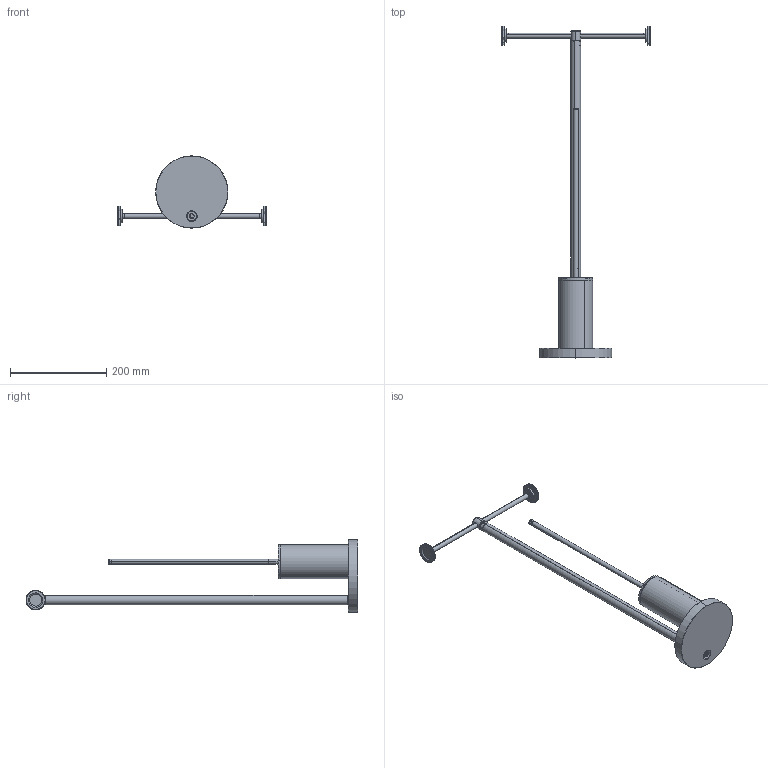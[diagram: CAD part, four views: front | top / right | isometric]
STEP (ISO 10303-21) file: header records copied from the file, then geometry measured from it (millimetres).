
FILE_DESCRIPTION (( 'STEP AP203' ), '1' );
FILE_NAME ('CWP10.STEP', '2020-12-22T07:56:49', ( '' ), ( '' ), 'SwSTEP 2.0', 'SolidWorks 2021', '' );
FILE_SCHEMA (( 'CONFIG_CONTROL_DESIGN' ));
Length unit declared in the file: millimetre
Products named in the file (23): C25.2366.00.0; C25.2376.00.0; C11.14.0011; C24.1463.00.1; C11.12.0012; C25.2355.00.0; C24.2330.00.0; C21.2359.00.0; C21.2358.00.0; C24.2370.00.0; C47.00.0127.06; C21.2357.00.0; VITE TCEI M6x20; ORING ﾘ 3,68 X 1,78; C25.2377.00.0; C25.2356.00.0; C25.2285.00.0; C21.2375.00.0; CWP10; C25.2309.00.0; CWS2; C25.2310.00.0; C25.2360.00.0
Assembly tree (24 placements, depth 3):
  CWP10
    C21.2375.00.0
    C25.2366.00.0
    C25.2376.00.0
    C24.2330.00.0
    C25.2377.00.0
    C11.14.0011
    CWS2
      C21.2359.00.0
      C25.2360.00.0
      C21.2358.00.0
      C25.2355.00.0
      C25.2356.00.0
      C21.2357.00.0
      C25.2309.00.0
      C25.2310.00.0
      C47.00.0127.06
      C25.2285.00.0
      ORING ﾘ 3,68 X 1,78
    C11.12.0012
    VITE TCEI M6x20
    C24.1463.00.1  x2
    C24.2370.00.0  x2
Bounding box: 310 x 689 x 150 mm (x, y, z)
Volume: 778253.4 mm3; surface area: 335328.2 mm2
Topology: 23 solids, 23 shells, 1011 faces, 2682 edges, 1749 vertices
Faces by surface type: plane 541, cylinder 360, cone 90, torus 20
Entity records: 22163 total; most frequent: CARTESIAN_POINT 3559, DIRECTION 3552, ORIENTED_EDGE 3240, EDGE_CURVE 1620, AXIS2_PLACEMENT_3D 1262, VERTEX_POINT 1047, LINE 1028, VECTOR 1028
